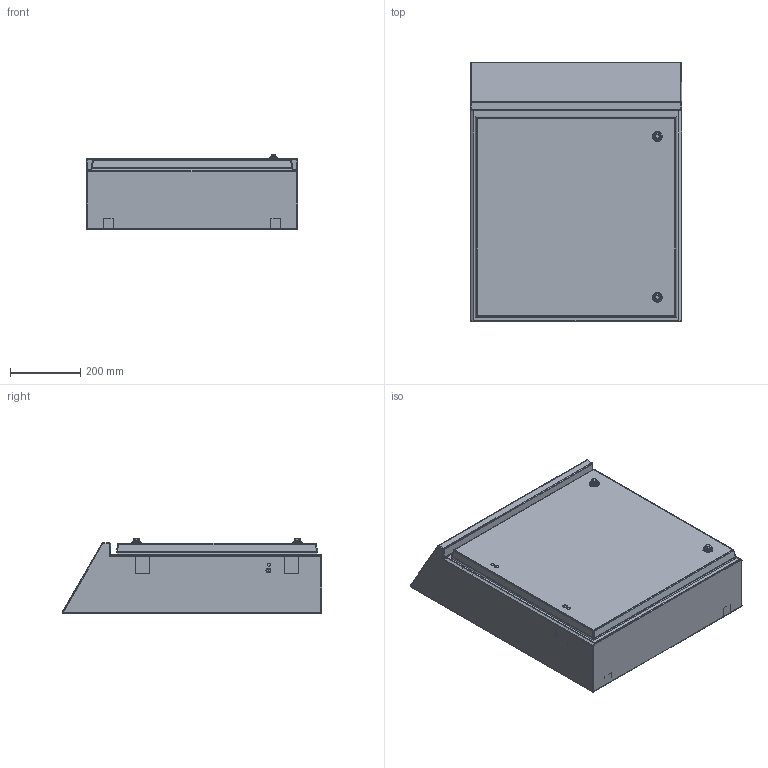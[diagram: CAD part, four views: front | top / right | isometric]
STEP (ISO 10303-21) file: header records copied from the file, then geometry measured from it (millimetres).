
FILE_DESCRIPTION (( 'STEP AP203' ), '1' );
FILE_NAME ('SITO-QSH66.STEP', '2021-05-06T07:05:59', ( '' ), ( '' ), 'SwSTEP 2.0', 'SolidWorks 2020', '' );
FILE_SCHEMA (( 'CONFIG_CONTROL_DESIGN' ));
Length unit declared in the file: millimetre
Products named in the file (18): SG460-32-HD_Posizione 3; CERNIERA; SITO-PORTA QSH66; PRM615TL316; SITO-QSH66; 1000-S1491; ADMT_ADMT; GHIERA SG CASSETTE; RP0612I; Scarpetta H.32 SG460-SD_Configurazione 2; DM06I; SITO-FASCIAME QSH66_QSH45; CEPOM(CORPO); SITO-ASSIEME PORTA QSH66; SVPIQSH66A; SG460-32-HD_Posizione 4; DMFD08Z; PIQSH66A
Assembly tree (31 placements, depth 4):
  SITO-QSH66
    SITO-FASCIAME QSH66_QSH45
    PIQSH66A
      SVPIQSH66A
    SITO-ASSIEME PORTA QSH66
      SITO-PORTA QSH66
      SG460-32-HD_Posizione 4
        1000-S1491
        GHIERA SG CASSETTE
        Scarpetta H.32 SG460-SD_Configurazione 2
        CEPOM(CORPO)
      SG460-32-HD_Posizione 3
        1000-S1491
        GHIERA SG CASSETTE
        Scarpetta H.32 SG460-SD_Configurazione 2
        CEPOM(CORPO)
      PRM615TL316  x2
      ADMT_ADMT  x2
      RP0612I  x2
      DM06I  x2
    DMFD08Z  x4
    ADMT_ADMT  x2
    CERNIERA  x2
Bounding box: 600 x 737.07 x 211.59 mm (x, y, z)
Volume: 3444043.8 mm3; surface area: 3744158.7 mm2
Topology: 33 solids, 33 shells, 1482 faces, 3623 edges, 2249 vertices
Faces by surface type: plane 766, cylinder 464, cone 124, bspline 86, sphere 28, torus 14
Entity records: 32130 total; most frequent: CARTESIAN_POINT 8119, DIRECTION 4574, ORIENTED_EDGE 4510, EDGE_CURVE 2255, AXIS2_PLACEMENT_3D 1598, VERTEX_POINT 1400, VECTOR 1378, LINE 1378
